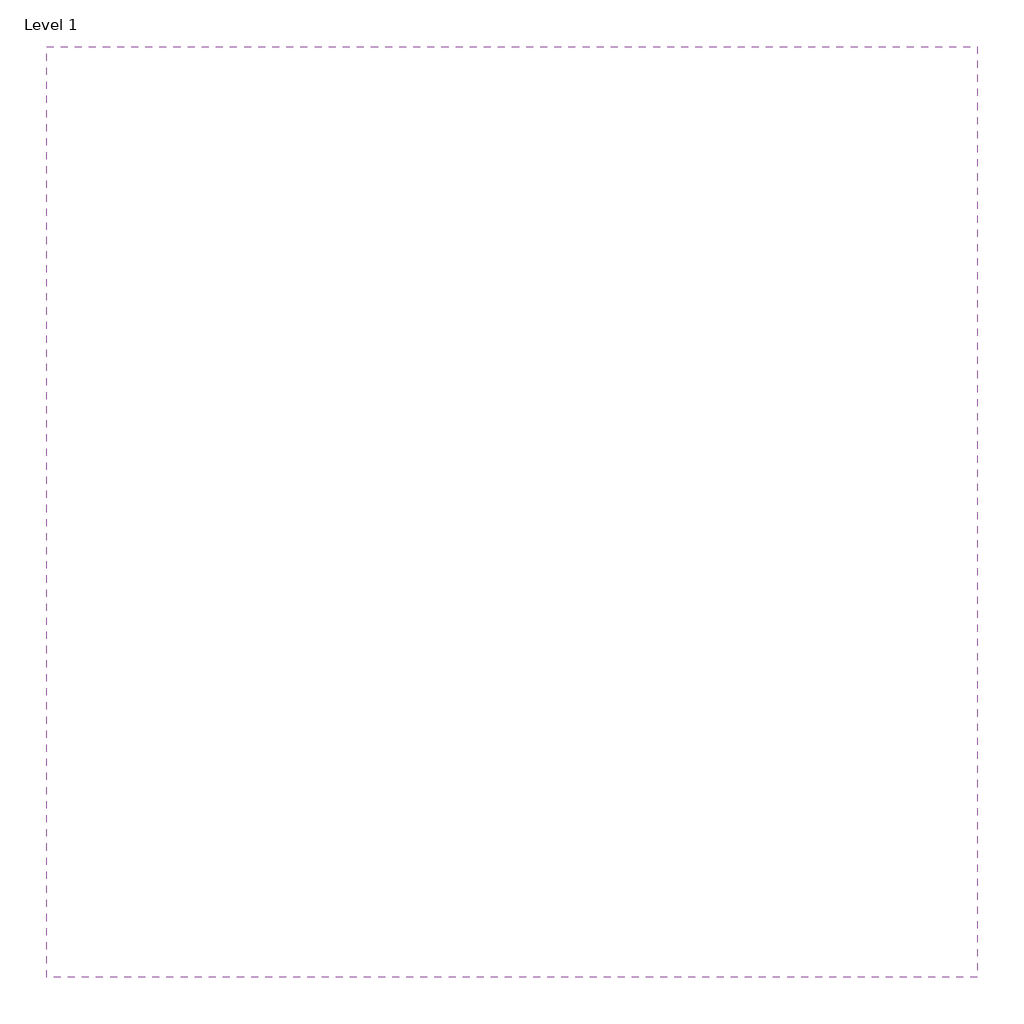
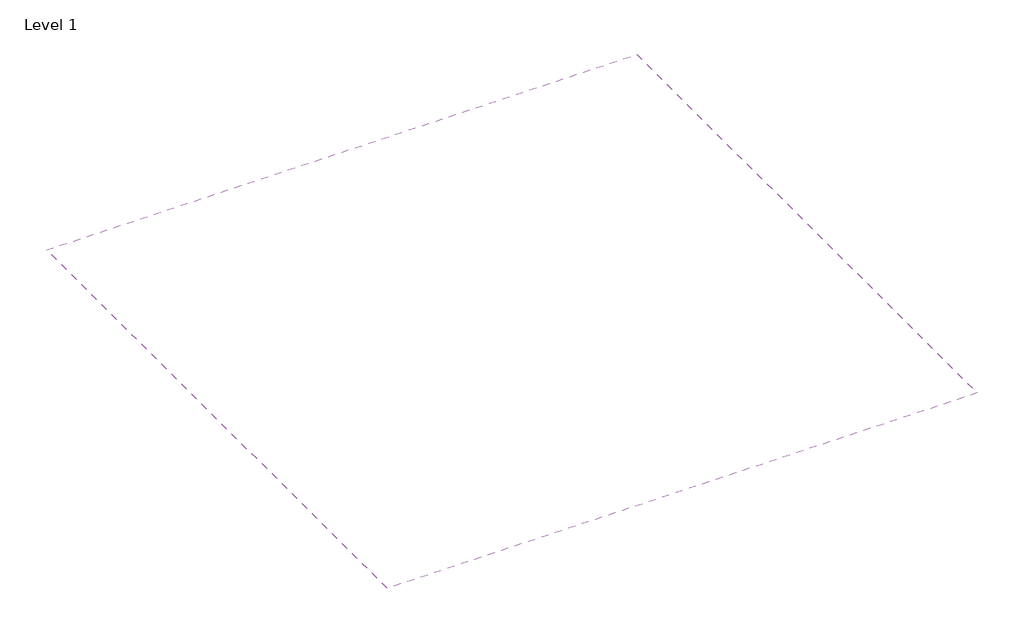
# One storey: 1 covering.
"""IFC4 building model written with IfcOpenShell, lengths in millimetres."""

from ifc_helpers import new_model, si_unit, frame, origin, place, context, project, spatial, polyline, outline, extrude, element, save

model = new_model("IFC4")

# Units and contexts
model_context = context("Model", 3, world=origin())
ifc_project = project(units=[si_unit("LENGTHUNIT", "METRE", prefix="MILLI")], contexts=[model_context])

# Site, building, storey
site = spatial("IfcSite", under=ifc_project)
building = spatial("IfcBuilding", under=site)
storey = spatial("IfcBuildingStorey", under=building, Name="Level 1", Elevation=0.0)

# Covering
placement = place(None, origin())
element("IfcCovering", 1, ObjectType="Ceiling-600x600-Armstrong_World_Ltd-Bioguard-Acoustic-BP2549M", at=placement, inside=storey, context=model_context, shape_type="SweptSolid", body=[
    extrude(outline(polyline([(-34271.7435003, 73284.0607123), (-34271.7435003, 72084.0607123), (-35471.7435003, 72084.0607123), (-35471.7435003, 73284.0607123), (-34271.7435003, 73284.0607123)])), frame((0.0, 0.0, 2438.4), z_axis=(0.0, 0.0, 1.0), x_axis=(1.0, 0.0, 0.0)), (0.0, 0.0, 1.0), 17.0),
])

save(model, "model.ifc")
